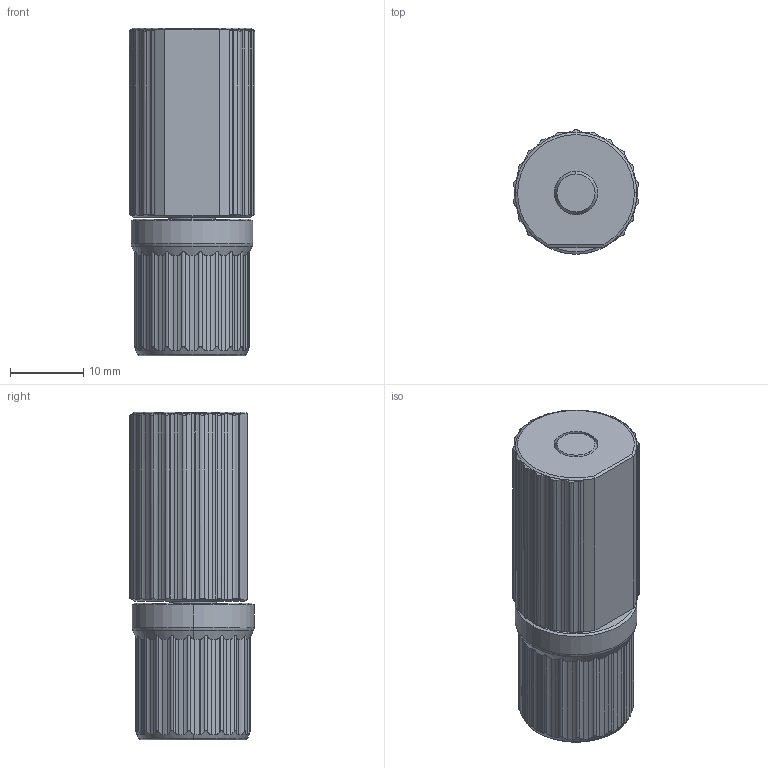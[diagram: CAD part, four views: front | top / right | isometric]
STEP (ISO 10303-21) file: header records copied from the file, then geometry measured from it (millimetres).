
FILE_DESCRIPTION (( 'STEP AP214' ), '1' );
FILE_NAME ('Reell TI-340-X.XX-02.STEP', '2014-10-17T13:44:26', ( 'OSI_Administrator' ), ( '' ), 'SwSTEP 2.0', 'SolidWorks 2014', '' );
FILE_SCHEMA (( 'AUTOMOTIVE_DESIGN' ));
Length unit declared in the file: millimetre
Products named in the file (1): Reell TI-340-X.XX-02
Bounding box: 17.13 x 16.97 x 44.74 mm (x, y, z)
Volume: 9218.2 mm3; surface area: 3481.8 mm2
Topology: 1 solids, 2 shells, 362 faces, 1031 edges, 676 vertices
Faces by surface type: cylinder 248, plane 50, torus 40, cone 24
Entity records: 13033 total; most frequent: CARTESIAN_POINT 4374, ORIENTED_EDGE 2062, DIRECTION 1465, EDGE_CURVE 1031, VERTEX_POINT 676, AXIS2_PLACEMENT_3D 565, B_SPLINE_CURVE_WITH_KNOTS 494, EDGE_LOOP 365
